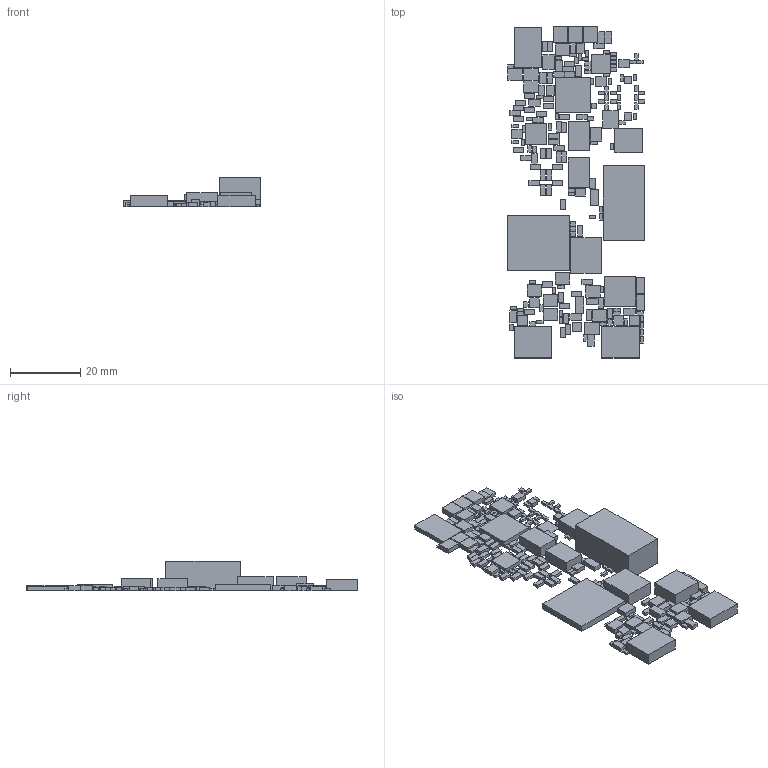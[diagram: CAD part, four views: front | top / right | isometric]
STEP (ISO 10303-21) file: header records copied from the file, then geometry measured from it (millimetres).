
FILE_DESCRIPTION(('Open CASCADE Model'),'2;1');
FILE_NAME('Open CASCADE Shape Model','2026-09-10T00:40:45',('Author'),( 'Open CASCADE'),'Open CASCADE STEP processor 7.8','Open CASCADE 7.8' ,'Unknown');
FILE_SCHEMA(('AUTOMOTIVE_DESIGN { 1 0 10303 214 1 1 1 1 }'));
Length unit declared in the file: millimetre
Products named in the file (204): Open CASCADE STEP translator 7.8 4; Open CASCADE STEP translator 7.8 4.1; Open CASCADE STEP translator 7.8 4.2; Open CASCADE STEP translator 7.8 4.3; Open CASCADE STEP translator 7.8 4.4; Open CASCADE STEP translator 7.8 4.5; Open CASCADE STEP translator 7.8 4.6; Open CASCADE STEP translator 7.8 4.7; Open CASCADE STEP translator 7.8 4.8; Open CASCADE STEP translator 7.8 4.9; Open CASCADE STEP translator 7.8 4.10; Open CASCADE STEP translator 7.8 4.11; Open CASCADE STEP translator 7.8 4.12; Open CASCADE STEP translator 7.8 4.13; Open CASCADE STEP translator 7.8 4.14; Open CASCADE STEP translator 7.8 4.15; Open CASCADE STEP translator 7.8 4.16; Open CASCADE STEP translator 7.8 4.17; Open CASCADE STEP translator 7.8 4.18; Open CASCADE STEP translator 7.8 4.19; Open CASCADE STEP translator 7.8 4.20; Open CASCADE STEP translator 7.8 4.21; Open CASCADE STEP translator 7.8 4.22; Open CASCADE STEP translator 7.8 4.23; Open CASCADE STEP translator 7.8 4.24; Open CASCADE STEP translator 7.8 4.25; Open CASCADE STEP translator 7.8 4.26; Open CASCADE STEP translator 7.8 4.27; Open CASCADE STEP translator 7.8 4.28; Open CASCADE STEP translator 7.8 4.29; Open CASCADE STEP translator 7.8 4.30; Open CASCADE STEP translator 7.8 4.31; Open CASCADE STEP translator 7.8 4.32; Open CASCADE STEP translator 7.8 4.33; Open CASCADE STEP translator 7.8 4.34; Open CASCADE STEP translator 7.8 4.35; Open CASCADE STEP translator 7.8 4.36; Open CASCADE STEP translator 7.8 4.37; Open CASCADE STEP translator 7.8 4.38; Open CASCADE STEP translator 7.8 4.39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
Assembly tree (203 placements, depth 2):
  Open CASCADE STEP translator 7.8 4
    Open CASCADE STEP translator 7.8 4.1
    Open CASCADE STEP translator 7.8 4.2
    Open CASCADE STEP translator 7.8 4.3
    Open CASCADE STEP translator 7.8 4.4
    Open CASCADE STEP translator 7.8 4.5
    Open CASCADE STEP translator 7.8 4.6
    Open CASCADE STEP translator 7.8 4.7
    Open CASCADE STEP translator 7.8 4.8
    Open CASCADE STEP translator 7.8 4.9
    Open CASCADE STEP translator 7.8 4.10
    Open CASCADE STEP translator 7.8 4.11
    Open CASCADE STEP translator 7.8 4.12
    Open CASCADE STEP translator 7.8 4.13
    Open CASCADE STEP translator 7.8 4.14
    Open CASCADE STEP translator 7.8 4.15
    Open CASCADE STEP translator 7.8 4.16
    Open CASCADE STEP translator 7.8 4.17
    Open CASCADE STEP translator 7.8 4.18
    Open CASCADE STEP translator 7.8 4.19
    Open CASCADE STEP translator 7.8 4.20
    Open CASCADE STEP translator 7.8 4.21
    Open CASCADE STEP translator 7.8 4.22
    Open CASCADE STEP translator 7.8 4.23
    Open CASCADE STEP translator 7.8 4.24
    Open CASCADE STEP translator 7.8 4.25
    Open CASCADE STEP translator 7.8 4.26
    Open CASCADE STEP translator 7.8 4.27
    Open CASCADE STEP translator 7.8 4.28
    Open CASCADE STEP translator 7.8 4.29
    Open CASCADE STEP translator 7.8 4.30
    Open CASCADE STEP translator 7.8 4.31
    Open CASCADE STEP translator 7.8 4.32
    Open CASCADE STEP translator 7.8 4.33
    Open CASCADE STEP translator 7.8 4.34
    Open CASCADE STEP translator 7.8 4.35
    Open CASCADE STEP translator 7.8 4.36
    Open CASCADE STEP translator 7.8 4.37
    Open CASCADE STEP translator 7.8 4.38
    Open CASCADE STEP translator 7.8 4.39
    Open CASCADE STEP translator 7.8 4.40
    Open CASCADE STEP translator 7.8 4.41
    Open CASCADE STEP translator 7.8 4.42
    Open CASCADE STEP translator 7.8 4.43
    Open CASCADE STEP translator 7.8 4.44
    Open CASCADE STEP translator 7.8 4.45
    Open CASCADE STEP translator 7.8 4.46
    Open CASCADE STEP translator 7.8 4.47
    Open CASCADE STEP translator 7.8 4.48
    Open CASCADE STEP translator 7.8 4.49
    Open CASCADE STEP translator 7.8 4.50
    Open CASCADE STEP translator 7.8 4.51
    Open CASCADE STEP translator 7.8 4.52
    Open CASCADE STEP translator 7.8 4.53
    Open CASCADE STEP translator 7.8 4.54
    Open CASCADE STEP translator 7.8 4.55
    Open CASCADE STEP translator 7.8 4.56
    Open CASCADE STEP translator 7.8 4.57
    Open CASCADE STEP translator 7.8 4.58
    Open CASCADE STEP translator 7.8 4.59
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Bounding box: 39.19 x 94.48 x 8.5 mm (x, y, z)
Volume: 5819.1 mm3; surface area: 7612.9 mm2
Topology: 203 solids, 203 shells, 1218 faces, 2436 edges, 1624 vertices
Faces by surface type: plane 1218
Entity records: 65788 total; most frequent: CARTESIAN_POINT 10354, DIRECTION 10152, LINE 7308, VECTOR 7308, ORIENTED_EDGE 4872, PCURVE 4872, DEFINITIONAL_REPRESENTATION 4872, EDGE_CURVE 2436
